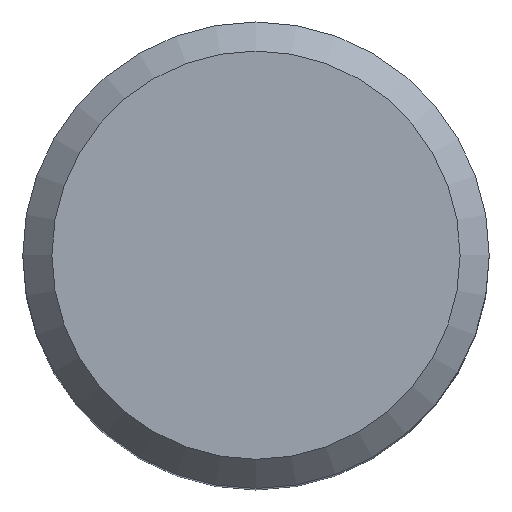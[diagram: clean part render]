
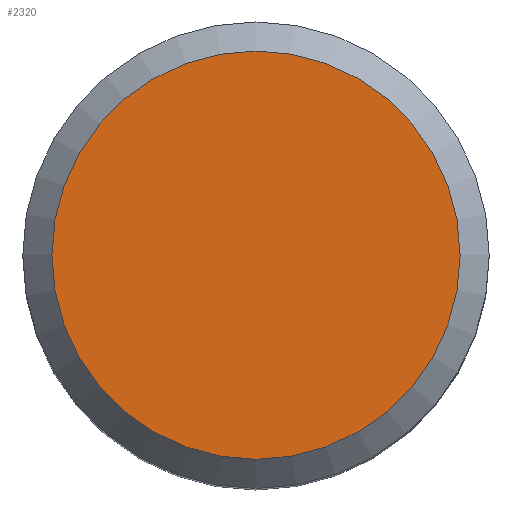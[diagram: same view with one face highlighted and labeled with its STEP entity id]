
A CAD part, top view. The second image highlights one B-rep face of the part: STEP entity #2320.
In plain terms, the highlighted planar face has unit normal (0, 0, 1).
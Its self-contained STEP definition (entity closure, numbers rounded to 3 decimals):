
#168 = EDGE_CURVE ( 'NONE', #1418, #1418, #244, .T. ) ;
#244 = CIRCLE ( 'NONE', #1777, 3.5 ) ;
#341 = CARTESIAN_POINT ( 'NONE',  ( 3.5, 0., 15. ) ) ;
#850 = DIRECTION ( 'NONE',  ( 1., 0., 0. ) ) ;
#919 = CARTESIAN_POINT ( 'NONE',  ( 0., 0., 15. ) ) ;
#1027 = DIRECTION ( 'NONE',  ( 0., 0., 1. ) ) ;
#1242 = FACE_OUTER_BOUND ( 'NONE', #2244, .T. ) ;
#1383 = PLANE ( 'NONE',  #1650 ) ;
#1418 = VERTEX_POINT ( 'NONE', #341 ) ;
#1491 = DIRECTION ( 'NONE',  ( 0., 0., 1. ) ) ;
#1554 = CARTESIAN_POINT ( 'NONE',  ( 0., 0., 15. ) ) ;
#1650 = AXIS2_PLACEMENT_3D ( 'NONE', #1554, #1027, #850 ) ;
#1686 = ORIENTED_EDGE ( 'NONE', *, *, #168, .T. ) ;
#1777 = AXIS2_PLACEMENT_3D ( 'NONE', #919, #1491, #2012 ) ;
#2012 = DIRECTION ( 'NONE',  ( 1., 0., 0. ) ) ;
#2244 = EDGE_LOOP ( 'NONE', ( #1686 ) ) ;
#2320 = ADVANCED_FACE ( 'NONE', ( #1242 ), #1383, .T. ) ;
